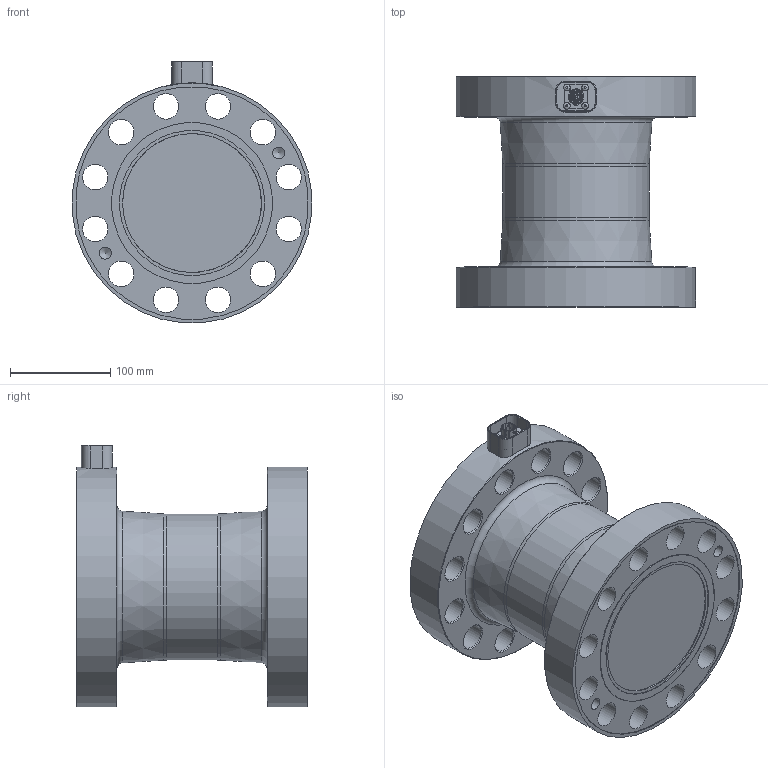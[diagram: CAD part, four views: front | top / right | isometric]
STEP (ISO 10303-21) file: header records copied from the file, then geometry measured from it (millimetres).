
FILE_DESCRIPTION (( 'STEP AP203' ), '1' );
FILE_NAME ('81041-SINGLE.STEP', '2018-11-21T18:01:23', ( '' ), ( '' ), 'SwSTEP 2.0', 'SolidWorks 2018', '' );
FILE_SCHEMA (( 'CONFIG_CONTROL_DESIGN' ));
Length unit declared in the file: inch
Products named in the file (1): 81041-SINGLE
Bounding box: 239.09 x 230 x 261.15 mm (x, y, z)
Volume: 5660461.9 mm3; surface area: 333312.3 mm2
Topology: 1 solids, 1 shells, 394 faces, 958 edges, 619 vertices
Faces by surface type: plane 180, cylinder 88, bspline 72, cone 46, torus 4, sphere 4
Full cylindrical faces by diameter (mm): 1.016 x6, 1.274 x3, 2.032 x3, 6.655 x4, 9.652 x1, 10.922 x1, 11.999 x4, 12.7 x1, 13.97 x1, 14.684 x1, 25.4 x24, 138.709 x2, 145.059 x2, 146.5 x1, 160.807 x2, 232.613 x2, 240 x2
Entity records: 16288 total; most frequent: CARTESIAN_POINT 7812, ORIENTED_EDGE 1662, DIRECTION 1556, EDGE_CURVE 831, EDGE_LOOP 598, VERTEX_POINT 595, AXIS2_PLACEMENT_3D 569, FACE_OUTER_BOUND 462
